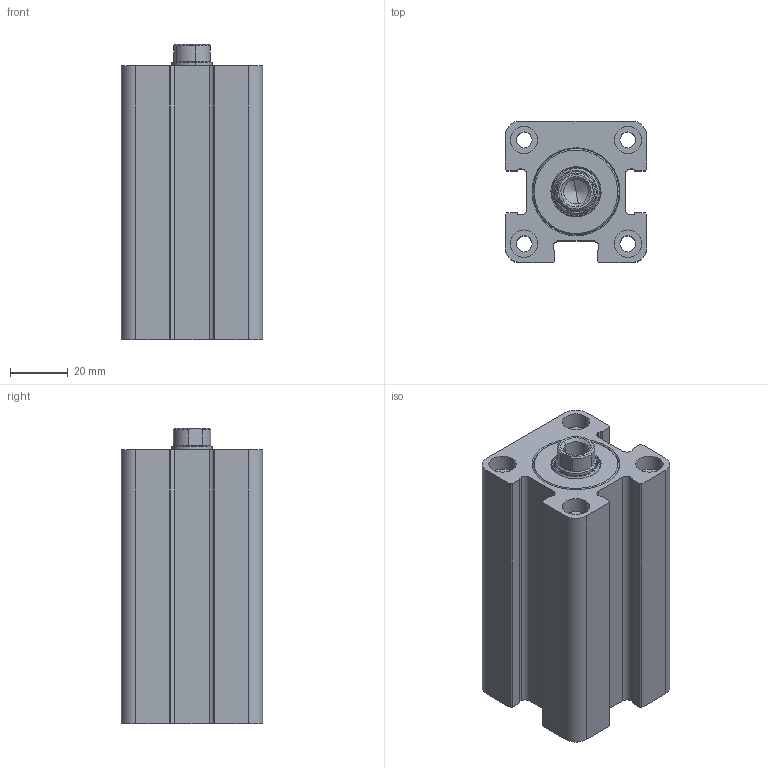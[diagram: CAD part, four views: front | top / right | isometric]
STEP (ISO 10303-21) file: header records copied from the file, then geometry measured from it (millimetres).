
FILE_DESCRIPTION (( 'STEP AP214' ), '1' );
FILE_NAME ('KSWC_03_M_25_14_50.STEP', '2022-09-11T08:47:26', ( '' ), ( '' ), 'SwSTEP 2.0', 'SolidWorks 2021', '' );
FILE_SCHEMA (( 'AUTOMOTIVE_DESIGN' ));
Length unit declared in the file: millimetre
Products named in the file (6): 14_K_MIL_WEB; KSWC_03_25_14_ON_KAPAK; KSWC_03_M_25_14_50; K06-14X18_6X2_3X3_3 (K06-014); KSWC_03_25_GOVDE_WEB; KSWC_03_25_14_烰_KAPAK
Assembly tree (5 placements, depth 3):
  KSWC_03_M_25_14_50
    KSWC_03_25_GOVDE_WEB
    KSWC_03_25_14_ON_KAPAK
      KSWC_03_25_14_烰_KAPAK
      K06-14X18_6X2_3X3_3 (K06-014)
    14_K_MIL_WEB
Bounding box: 49 x 49 x 102.5 mm (x, y, z)
Volume: 155199.2 mm3; surface area: 49966.6 mm2
Topology: 4 solids, 4 shells, 391 faces, 973 edges, 623 vertices
Faces by surface type: plane 142, bspline 121, cylinder 83, cone 45
Entity records: 16500 total; most frequent: CARTESIAN_POINT 7586, ORIENTED_EDGE 1942, DIRECTION 1469, EDGE_CURVE 971, VERTEX_POINT 623, LINE 505, VECTOR 505, AXIS2_PLACEMENT_3D 482
